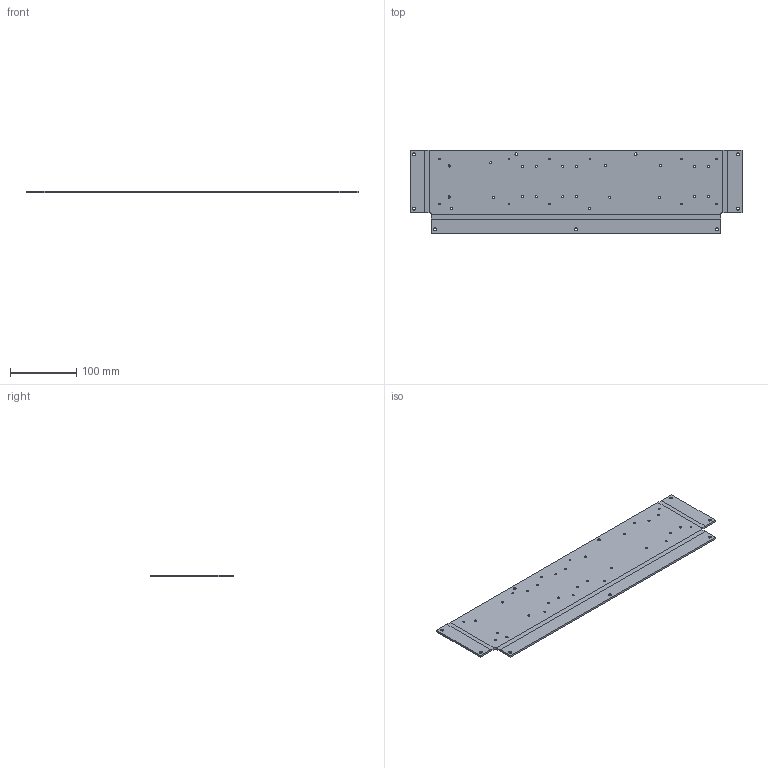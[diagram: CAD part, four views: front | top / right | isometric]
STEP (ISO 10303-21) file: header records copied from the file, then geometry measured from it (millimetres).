
FILE_DESCRIPTION(/* description */ (''),/* implementation_level */ '2;1');
FILE_NAME(/* name */ 'C:/Users/anton/Documents/Kerbal Space Program/Kerbal_Control_Panel/KCP2/CAD/ForManufacture/casing/Panel_DodgePlate_v95_FlatPattern.step',/* time_stamp */ '2020-11-15T14:30:02-08:00',/* author */ (''),/* organization */ (''),/* preprocessor_version */ 'ST-DEVELOPER v18.1',/* originating_system */ 'Autodesk Translation Framework v9.3.0.1241',/* authorisation */ '');
FILE_SCHEMA (('AUTOMOTIVE_DESIGN { 1 0 10303 214 3 1 1 }'));
Length unit declared in the file: millimetre
Products named in the file (1): Dodge Plate
Bounding box: 501.57 x 125.79 x 3 mm (x, y, z)
Volume: 181447.6 mm3; surface area: 126238.1 mm2
Topology: 1 solids, 1 shells, 109 faces, 266 edges, 159 vertices
Faces by surface type: cylinder 44, plane 34, cone 31
Full cylindrical faces by diameter (mm): 2.529 x11, 3.264 x20, 3.4 x2, 4.496 x9
Entity records: 3432 total; most frequent: DIRECTION 605, CARTESIAN_POINT 535, ORIENTED_EDGE 532, EDGE_CURVE 266, AXIS2_PLACEMENT_3D 229, EDGE_LOOP 193, VERTEX_POINT 159, LINE 147
